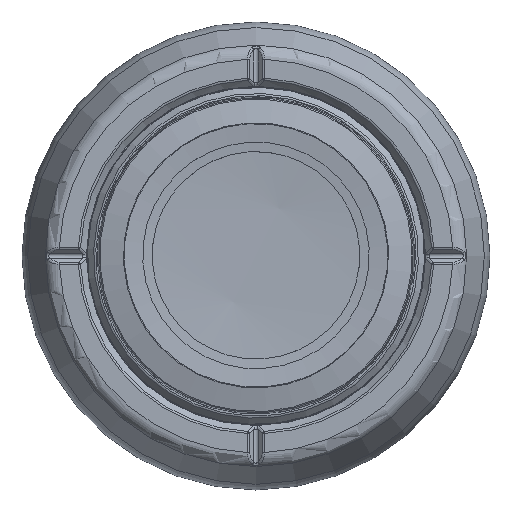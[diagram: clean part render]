
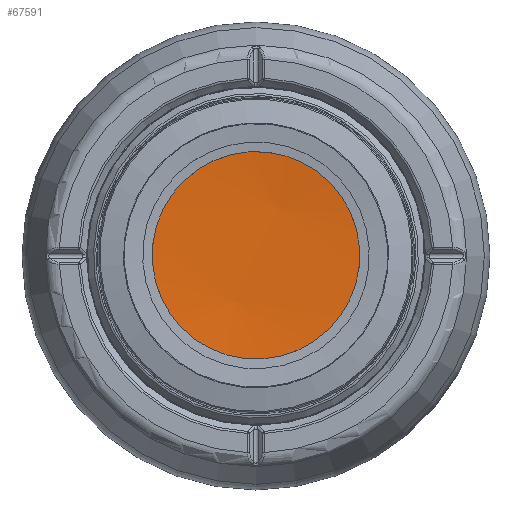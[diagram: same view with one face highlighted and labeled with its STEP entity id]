
A CAD part, top view. The second image highlights one B-rep face of the part: STEP entity #67591.
In plain terms, the highlighted spherical face has radius 143.2 mm.
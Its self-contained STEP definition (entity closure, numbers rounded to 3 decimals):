
#872=SPHERICAL_SURFACE('',#72213,143.2);
#6925=FACE_OUTER_BOUND('',#11064,.T.);
#11064=EDGE_LOOP('',(#47381));
#25156=CIRCLE('',#72214,13.754);
#28504=VERTEX_POINT('',#100806);
#35571=EDGE_CURVE('',#28504,#28504,#25156,.T.);
#47381=ORIENTED_EDGE('',*,*,#35571,.T.);
#67591=ADVANCED_FACE('',(#6925),#872,.F.);
#72213=AXIS2_PLACEMENT_3D('',#100805,#79979,#79980);
#72214=AXIS2_PLACEMENT_3D('',#100807,#79981,#79982);
#79979=DIRECTION('center_axis',(0.898,-0.441,0.));
#79980=DIRECTION('ref_axis',(0.441,0.898,0.));
#79981=DIRECTION('center_axis',(0.,0.,
1.));
#79982=DIRECTION('ref_axis',(0.441,0.898,0.));
#100805=CARTESIAN_POINT('Origin',(0.,0.,
183.125));
#100806=CARTESIAN_POINT('',(6.065,12.345,40.587));
#100807=CARTESIAN_POINT('Origin',(0.,0.,
40.587));
